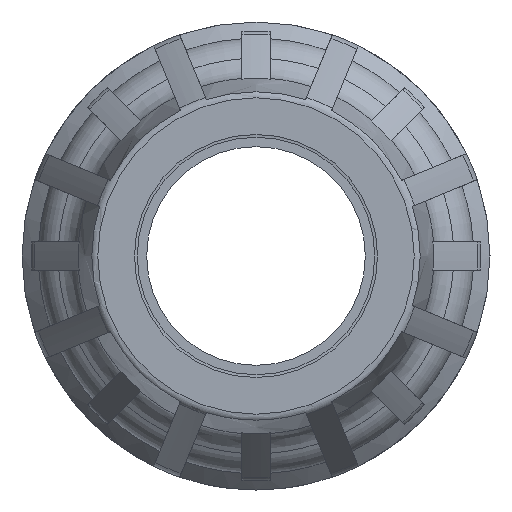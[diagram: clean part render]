
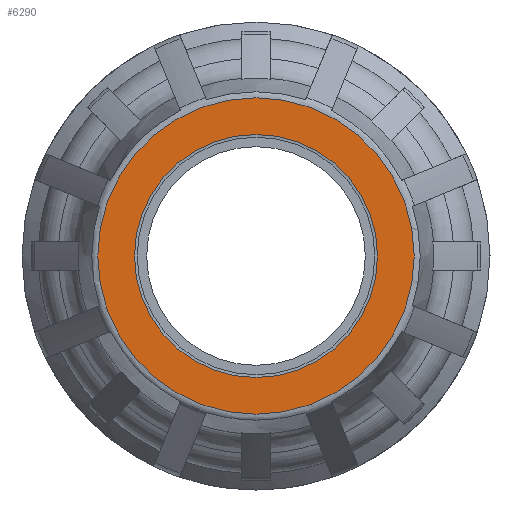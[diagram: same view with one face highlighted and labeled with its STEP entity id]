
A CAD part, left-side view. The second image highlights one B-rep face of the part: STEP entity #6290.
In plain terms, the highlighted planar face has unit normal (-1, 0, 0).
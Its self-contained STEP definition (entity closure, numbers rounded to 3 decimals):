
#90=PLANE('',#6960);
#2792=ORIENTED_EDGE('',*,*,#3977,.F.);
#2793=ORIENTED_EDGE('',*,*,#3994,.F.);
#3977=EDGE_CURVE('',#4711,#4711,#5048,.T.);
#3994=EDGE_CURVE('',#4712,#4712,#5065,.F.);
#4711=VERTEX_POINT('',#11836);
#4712=VERTEX_POINT('',#11871);
#5048=CIRCLE('',#6927,17.577);
#5065=CIRCLE('',#6961,13.5);
#5419=EDGE_LOOP('',(#2792));
#5420=EDGE_LOOP('',(#2793));
#5827=FACE_BOUND('',#5419,.T.);
#5828=FACE_BOUND('',#5420,.T.);
#6290=ADVANCED_FACE('',(#5827,#5828),#90,.F.);
#6927=AXIS2_PLACEMENT_3D('',#11835,#8311,#8312);
#6960=AXIS2_PLACEMENT_3D('',#11869,#8377,#8378);
#6961=AXIS2_PLACEMENT_3D('',#11870,#8379,#8380);
#8311=DIRECTION('',(1.,0.,0.));
#8312=DIRECTION('',(0.,0.,-1.));
#8377=DIRECTION('',(1.,0.,0.));
#8378=DIRECTION('',(0.,0.,-1.));
#8379=DIRECTION('',(1.,0.,0.));
#8380=DIRECTION('',(0.,0.,-1.));
#11835=CARTESIAN_POINT('',(0.,0.,0.));
#11836=CARTESIAN_POINT('',(0.,0.,-17.577));
#11869=CARTESIAN_POINT('',(0.,0.,0.));
#11870=CARTESIAN_POINT('',(0.,0.,0.));
#11871=CARTESIAN_POINT('',(0.,0.,-13.5));
